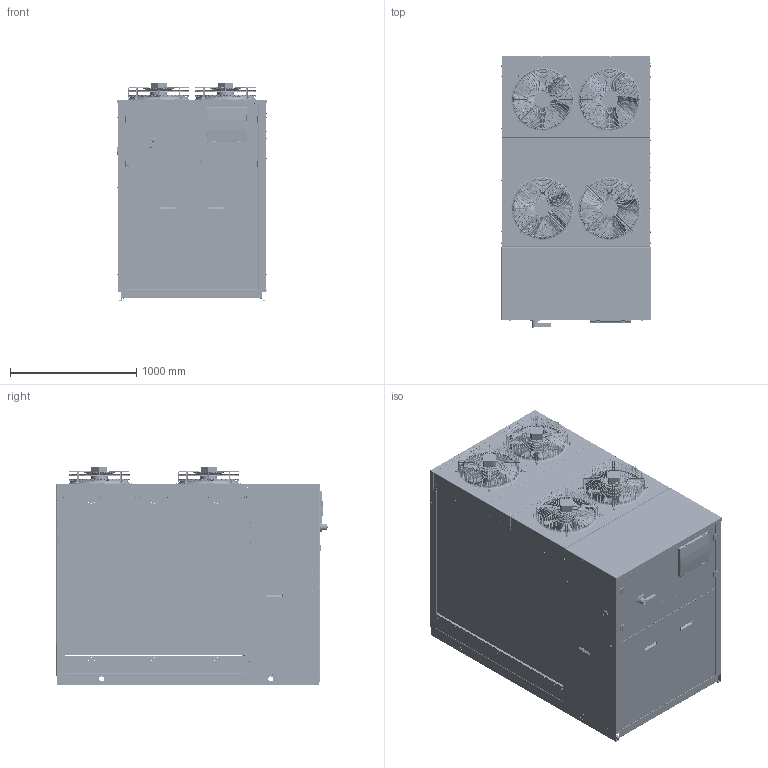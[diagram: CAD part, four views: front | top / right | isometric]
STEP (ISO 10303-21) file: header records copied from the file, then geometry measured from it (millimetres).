
FILE_DESCRIPTION (( 'STEP AP203' ), '1' );
FILE_NAME ('LAYOUT - D5 - 4V.STEP', '2023-09-21T14:20:42', ( '' ), ( '' ), 'SwSTEP 2.0', 'SolidWorks 2013', '' );
FILE_SCHEMA (( 'CONFIG_CONTROL_DESIGN' ));
Length unit declared in the file: millimetre
Products named in the file (156): RG05922536; VM85000014_oa_26; HF96000076_oa_6; RG10020749; 92800444; RG05921588; HF55000022; RG05922262; RG05921565; RG05922176; HF80000165; HF80000009; VM40000403; VM40000404; HF70000039; HF40001521; RG05926426; RG11018708; vm40000449; vm40000442; HF96000076_oa_10; RG05922383; VM40000445; RG40018049; HF80000108; HF80000165_02; VM85000014_oa_23; 92800314; RG05927752; HF70000039_02; HF96000076_oa_9; HF80000005; RG05921562; 1701274; RG05908814; RG05921564; 32401411_oa_14; RG85015461; VM85000014_oa_28; 92800483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
Assembly tree (809 placements, depth 4):
  LAYOUT - D5 - 4V
    RG10026427
      RG10921283
        RG05921284
        hf80000080  x66
        RG05921553  x2
        RG05921285  x6
      92800447  x8
      1700226  x2
      HF80000002  x108
      1700778  x2
      RG05922383
      RG05921586
      HF80000009  x16
      hf80000080  x14
      RG05921585  x2
      1700227  x11
      HF80000005  x30
      RG05921567
      1701274
      RG05921720  x2
      RG05921752
      RG05926441
      HF17903921
      RG37001440
      RG05921584
      RG05921568
      RG05923987
      RG05908814
      RG05908815
      RG05927752
      RG05908826  x2
      RG05921724
      RG05922536
      HF80000071  x2
      1700846  x5
      RG05921753
      RG05921587
      VM80000160  x6
      92550421  x6
      HF17905285
      RG05927753
      HF80000084  x5
      RG05921728
      RG05921435
      RG05926426
      RG05927735
    92800314  x4
    RG10020749  x4
      HF80000108
      HF55000022
      HF80000111
      HF80000002
    HF80000002  x36
    RG37001440
    HF47000114S  x4
      HF47000114S_1
      HF70000039
        HF70000039_01
        HF70000039_02  x4
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Bounding box: 1189.78 x 2163 x 1731.2 mm (x, y, z)
Volume: 233078312.7 mm3; surface area: 71394631.5 mm2
Topology: 945 solids, 955 shells, 33989 faces, 90558 edges, 58839 vertices
Faces by surface type: plane 18244, cylinder 9988, bspline 4839, cone 464, torus 454
Entity records: 469431 total; most frequent: CARTESIAN_POINT 106291, ORIENTED_EDGE 69532, DIRECTION 66586, EDGE_CURVE 34806, LINE 24424, VECTOR 24424, VERTEX_POINT 22821, AXIS2_PLACEMENT_3D 21081
